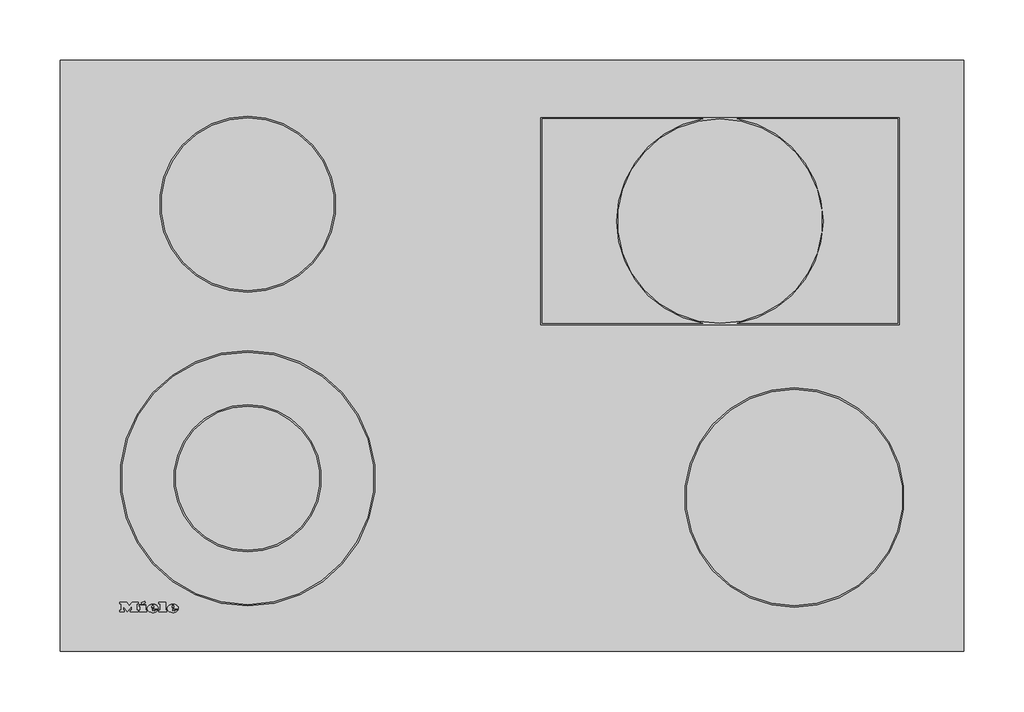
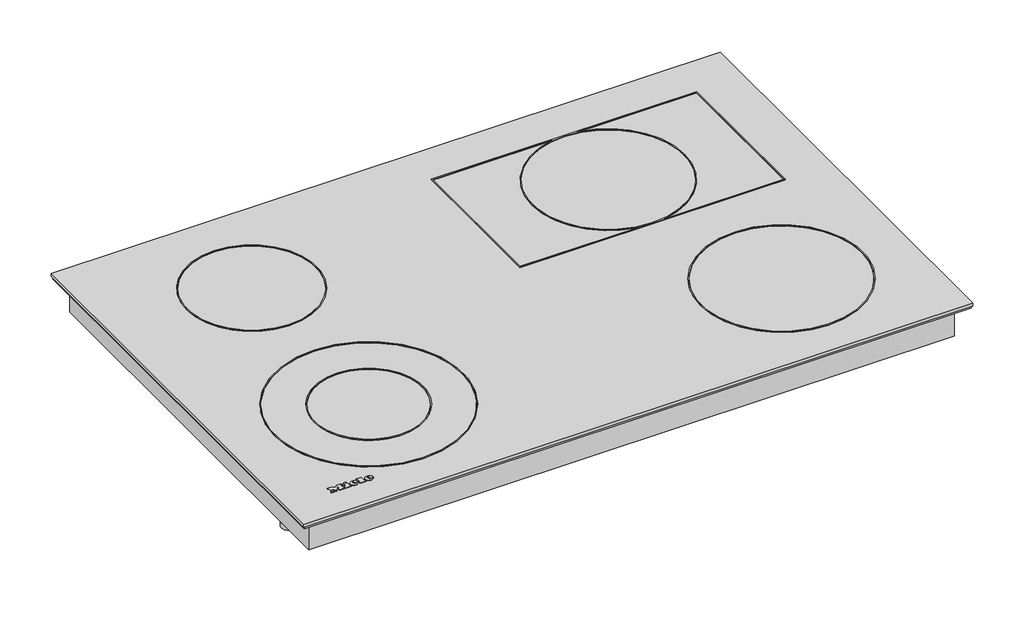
# Not in any storey: 1 proxy.
"""IFC4 building model written with IfcOpenShell, lengths in millimetres."""

from ifc_helpers import new_model, si_unit, origin, place, context, project, spatial, transform, mapped, element, save
from components import specialty_equipment_642be2a8

model = new_model("IFC4")

# Units and contexts
model_context = context("Model", 3, world=origin())
ifc_project = project(units=[si_unit("LENGTHUNIT", "METRE", prefix="MILLI")], contexts=[model_context])

# Site, building
site = spatial("IfcSite", under=ifc_project)
building = spatial("IfcBuilding", under=site)

# Proxy
placement = place(None, origin())
specialty_equipment_shape = specialty_equipment_642be2a8(model_context)
element("IfcBuildingElementProxy", 1, Name="12291790_UA_KM6542FL : 26654270_UA_12291790_KM6542FL", ObjectType="12291790_UA_KM6542FL : 26654270_UA_12291790_KM6542FL", at=placement, inside=building, context=model_context, shape_type="MappedRepresentation", body=[
    mapped(specialty_equipment_shape, transform((0.0, 0.0, 0.0), x_axis=(1.0, 0.0, 0.0), y_axis=(0.0, 1.0, 0.0), z_axis=(0.0, 0.0, 1.0))),
])

save(model, "model.ifc")
